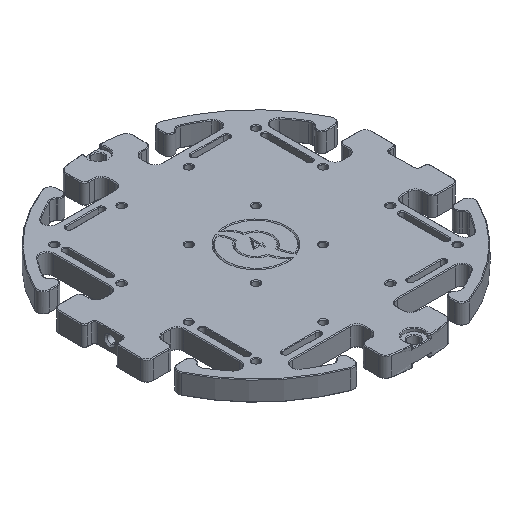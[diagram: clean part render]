
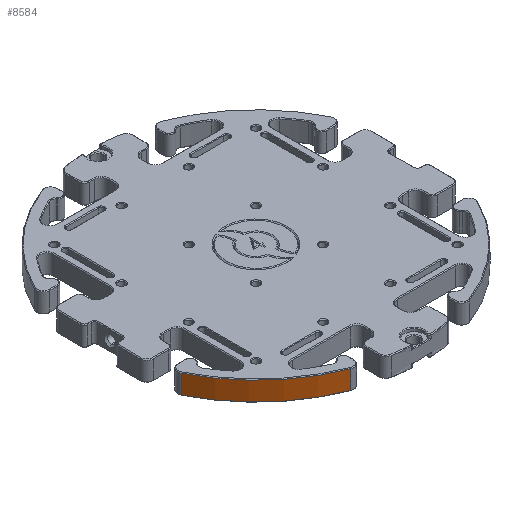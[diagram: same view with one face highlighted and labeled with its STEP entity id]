
A CAD part, isometric view. The second image highlights one B-rep face of the part: STEP entity #8584.
In plain terms, the highlighted cylindrical face has radius 49.25 mm (diameter 98.5 mm), a partial arc.
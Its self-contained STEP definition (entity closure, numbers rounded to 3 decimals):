
#270 = VERTEX_POINT ( 'NONE', #19051 ) ;
#821 = EDGE_CURVE ( 'NONE', #21022, #6080, #7035, .T. ) ;
#1828 = CIRCLE ( 'NONE', #15814, 49.25 ) ;
#2842 = VECTOR ( 'NONE', #6269, 1000. ) ;
#3305 = ORIENTED_EDGE ( 'NONE', *, *, #20925, .T. ) ;
#4859 = DIRECTION ( 'NONE',  ( 0., 0., 1. ) ) ;
#5139 = VERTEX_POINT ( 'NONE', #22165 ) ;
#5812 = AXIS2_PLACEMENT_3D ( 'NONE', #11999, #4859, #7878 ) ;
#6080 = VERTEX_POINT ( 'NONE', #17399 ) ;
#6269 = DIRECTION ( 'NONE',  ( 0., 0., -1. ) ) ;
#7035 = CIRCLE ( 'NONE', #22486, 49.25 ) ;
#7878 = DIRECTION ( 'NONE',  ( 1., 0., 0. ) ) ;
#7926 = CARTESIAN_POINT ( 'NONE',  ( 0., 0., 2.8 ) ) ;
#8584 = ADVANCED_FACE ( 'NONE', ( #12126 ), #17427, .T. ) ;
#9648 = DIRECTION ( 'NONE',  ( 0., 0., -1. ) ) ;
#9906 = EDGE_LOOP ( 'NONE', ( #3305, #13567, #14449, #12266 ) ) ;
#10125 = LINE ( 'NONE', #11977, #15853 ) ;
#10994 = DIRECTION ( 'NONE',  ( 0., 0., 1. ) ) ;
#11911 = CARTESIAN_POINT ( 'NONE',  ( -17.72, -45.952, 2.8 ) ) ;
#11977 = CARTESIAN_POINT ( 'NONE',  ( -17.72, -45.952, -3. ) ) ;
#11999 = CARTESIAN_POINT ( 'NONE',  ( 0., 0., -3. ) ) ;
#12126 = FACE_OUTER_BOUND ( 'NONE', #9906, .T. ) ;
#12266 = ORIENTED_EDGE ( 'NONE', *, *, #821, .T. ) ;
#13567 = ORIENTED_EDGE ( 'NONE', *, *, #14583, .T. ) ;
#14233 = DIRECTION ( 'NONE',  ( -1., 0., 0. ) ) ;
#14449 = ORIENTED_EDGE ( 'NONE', *, *, #16874, .T. ) ;
#14583 = EDGE_CURVE ( 'NONE', #5139, #270, #1828, .T. ) ;
#15814 = AXIS2_PLACEMENT_3D ( 'NONE', #19437, #10994, #14233 ) ;
#15853 = VECTOR ( 'NONE', #19139, 1000. ) ;
#16764 = LINE ( 'NONE', #22064, #2842 ) ;
#16874 = EDGE_CURVE ( 'NONE', #270, #21022, #10125, .T. ) ;
#17399 = CARTESIAN_POINT ( 'NONE',  ( -44.118, -21.889, 2.8 ) ) ;
#17427 = CYLINDRICAL_SURFACE ( 'NONE', #5812, 49.25 ) ;
#18536 = DIRECTION ( 'NONE',  ( -1., 0., 0. ) ) ;
#19051 = CARTESIAN_POINT ( 'NONE',  ( -17.72, -45.952, -2.8 ) ) ;
#19139 = DIRECTION ( 'NONE',  ( 0., 0., 1. ) ) ;
#19437 = CARTESIAN_POINT ( 'NONE',  ( 0., 0., -2.8 ) ) ;
#20925 = EDGE_CURVE ( 'NONE', #6080, #5139, #16764, .T. ) ;
#21022 = VERTEX_POINT ( 'NONE', #11911 ) ;
#22064 = CARTESIAN_POINT ( 'NONE',  ( -44.118, -21.889, -3. ) ) ;
#22165 = CARTESIAN_POINT ( 'NONE',  ( -44.118, -21.889, -2.8 ) ) ;
#22486 = AXIS2_PLACEMENT_3D ( 'NONE', #7926, #9648, #18536 ) ;
